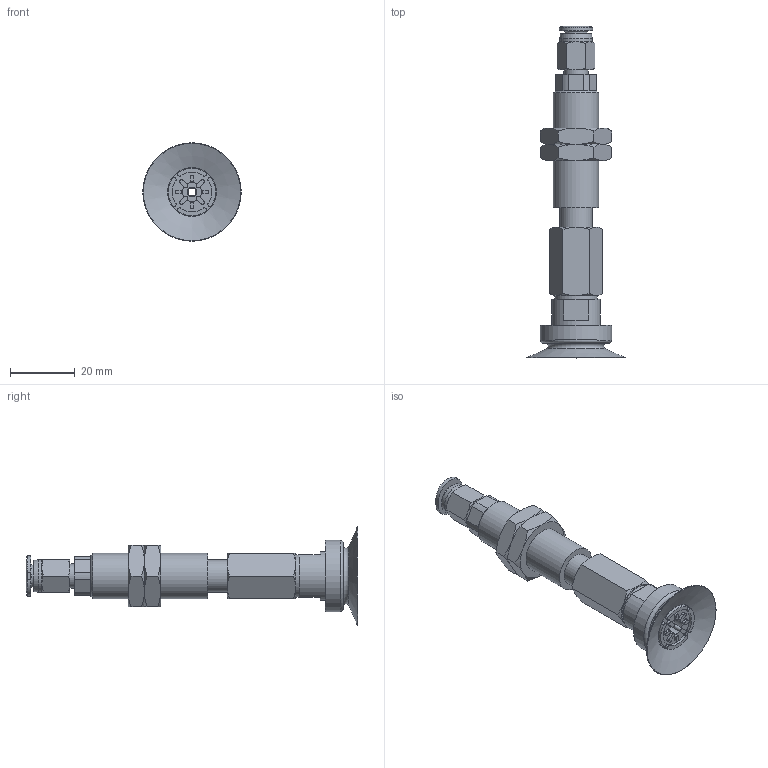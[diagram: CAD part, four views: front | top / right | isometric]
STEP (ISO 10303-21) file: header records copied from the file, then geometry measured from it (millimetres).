
FILE_DESCRIPTION(('STEP AP203'),'1');
FILE_NAME('-O.stp','2025-08-26T09:02:32',(' '),(' '),'Spatial InterOp 3D',' ',' ');
FILE_SCHEMA(('CONFIG_CONTROL_DESIGN'));
Length unit declared in the file: millimetre
Products named in the file (7): BNABPATS-30-6-※-O; ADAPTER; NAPATS-30B-6--M; NAPATS-30B-6--F; Nut-25-S; PC-C_06-M5; BPAG-30-※
Assembly tree (7 placements, depth 2):
  BNABPATS-30-6-※-O
    ADAPTER
    NAPATS-30B-6--M
    NAPATS-30B-6--F
    Nut-25-S  x2
    PC-C_06-M5
    BPAG-30-※
Bounding box: 30.3 x 102.18 x 30.3 mm (x, y, z)
Volume: 15492.2 mm3; surface area: 12658.9 mm2
Topology: 6 solids, 9 shells, 233 faces, 525 edges, 328 vertices
Faces by surface type: plane 94, cylinder 66, cone 62, bspline 4, torus 4, revolution 3
Full cylindrical faces by diameter (mm): 3 x3, 4 x2, 4.134 x1, 4.6 x1, 4.917 x1, 5 x1, 6 x1, 7 x1, 7.4 x1, 8.2 x1, 10 x3, 12.917 x2, 13 x1, 14 x1, 15 x1, 22 x1
Entity records: 6507 total; most frequent: CARTESIAN_POINT 1631, DIRECTION 974, ORIENTED_EDGE 862, EDGE_CURVE 433, AXIS2_PLACEMENT_3D 406, VERTEX_POINT 295, EDGE_LOOP 280, CIRCLE 196
